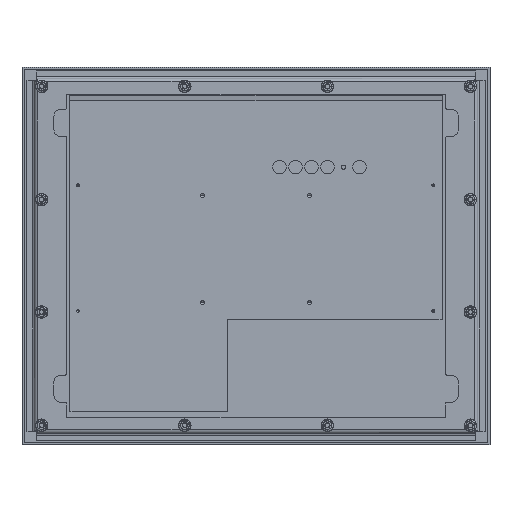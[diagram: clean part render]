
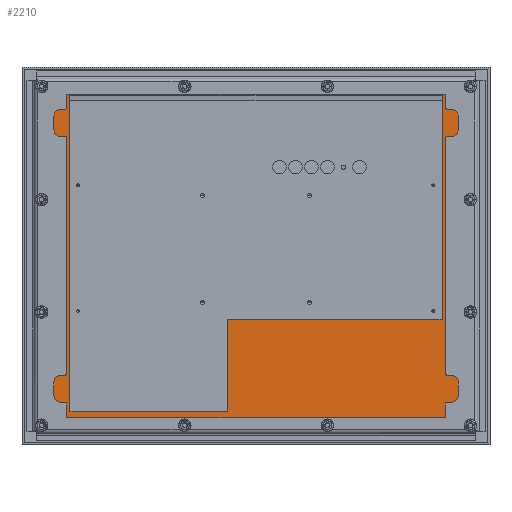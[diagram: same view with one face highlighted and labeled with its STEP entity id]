
A CAD part, top view. The second image highlights one B-rep face of the part: STEP entity #2210.
In plain terms, the highlighted planar face has unit normal (0, 0, 1).
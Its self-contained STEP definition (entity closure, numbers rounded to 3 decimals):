
#504 = VECTOR ( 'NONE', #8947, 1000. ) ;
#743 = DIRECTION ( 'NONE',  ( 0., 1., 0. ) ) ;
#769 = EDGE_CURVE ( 'NONE', #7887, #6923, #4839, .T. ) ;
#965 = EDGE_CURVE ( 'NONE', #10440, #8520, #2818, .T. ) ;
#1954 = DIRECTION ( 'NONE',  ( 0., -1., 0. ) ) ;
#2209 = CARTESIAN_POINT ( 'NONE',  ( 0., 0., 17.45 ) ) ;
#2210 = ADVANCED_FACE ( 'NONE', ( #2936 ), #6936, .F. ) ;
#2419 = CARTESIAN_POINT ( 'NONE',  ( 198.096, 149.584, 17.45 ) ) ;
#2723 = DIRECTION ( 'NONE',  ( 0., 0., -1. ) ) ;
#2818 = LINE ( 'NONE', #11550, #9916 ) ;
#2879 = ORIENTED_EDGE ( 'NONE', *, *, #9984, .T. ) ;
#2936 = FACE_OUTER_BOUND ( 'NONE', #4872, .T. ) ;
#2987 = LINE ( 'NONE', #11676, #504 ) ;
#3023 = VECTOR ( 'NONE', #5285, 1000. ) ;
#3050 = LINE ( 'NONE', #10270, #8269 ) ;
#3088 = CARTESIAN_POINT ( 'NONE',  ( 191.685, 155.996, 17.45 ) ) ;
#3143 = VERTEX_POINT ( 'NONE', #8350 ) ;
#3526 = VERTEX_POINT ( 'NONE', #2419 ) ;
#3551 = VECTOR ( 'NONE', #1954, 1000. ) ;
#3654 = EDGE_CURVE ( 'NONE', #6923, #3526, #7676, .T. ) ;
#4036 = VECTOR ( 'NONE', #11204, 1000. ) ;
#4214 = DIRECTION ( 'NONE',  ( -1., 0., 0. ) ) ;
#4359 = CARTESIAN_POINT ( 'NONE',  ( 191.685, 155.996, 17.45 ) ) ;
#4722 = DIRECTION ( 'NONE',  ( 1., 0., 0. ) ) ;
#4839 = LINE ( 'NONE', #11305, #9507 ) ;
#4867 = ORIENTED_EDGE ( 'NONE', *, *, #3654, .T. ) ;
#4871 = EDGE_CURVE ( 'NONE', #11731, #5664, #8981, .T. ) ;
#4872 = EDGE_LOOP ( 'NONE', ( #10031, #7326, #6462, #10334, #4867, #11538, #7201, #2879 ) ) ;
#4916 = CARTESIAN_POINT ( 'NONE',  ( 198.096, -149.584, 17.45 ) ) ;
#5196 = EDGE_CURVE ( 'NONE', #3526, #10440, #10689, .T. ) ;
#5285 = DIRECTION ( 'NONE',  ( -0.707, 0.707, 0. ) ) ;
#5436 = CARTESIAN_POINT ( 'NONE',  ( -191.685, 155.996, 17.45 ) ) ;
#5664 = VERTEX_POINT ( 'NONE', #6221 ) ;
#5732 = LINE ( 'NONE', #7501, #3551 ) ;
#6221 = CARTESIAN_POINT ( 'NONE',  ( -191.685, -155.996, 17.45 ) ) ;
#6305 = CARTESIAN_POINT ( 'NONE',  ( 198.096, 149.584, 17.45 ) ) ;
#6349 = EDGE_CURVE ( 'NONE', #5664, #7887, #3050, .T. ) ;
#6462 = ORIENTED_EDGE ( 'NONE', *, *, #6349, .T. ) ;
#6606 = CARTESIAN_POINT ( 'NONE',  ( 191.685, -155.996, 17.45 ) ) ;
#6665 = DIRECTION ( 'NONE',  ( 0.707, 0.707, 0. ) ) ;
#6923 = VERTEX_POINT ( 'NONE', #4916 ) ;
#6936 = PLANE ( 'NONE',  #6988 ) ;
#6988 = AXIS2_PLACEMENT_3D ( 'NONE', #2209, #2723, #10362 ) ;
#7201 = ORIENTED_EDGE ( 'NONE', *, *, #965, .T. ) ;
#7326 = ORIENTED_EDGE ( 'NONE', *, *, #4871, .T. ) ;
#7501 = CARTESIAN_POINT ( 'NONE',  ( -198.097, -149.584, 17.45 ) ) ;
#7676 = LINE ( 'NONE', #6305, #10130 ) ;
#7887 = VERTEX_POINT ( 'NONE', #6606 ) ;
#8269 = VECTOR ( 'NONE', #4722, 1000. ) ;
#8350 = CARTESIAN_POINT ( 'NONE',  ( -198.097, 149.584, 17.45 ) ) ;
#8520 = VERTEX_POINT ( 'NONE', #5436 ) ;
#8947 = DIRECTION ( 'NONE',  ( -0.707, -0.707, 0. ) ) ;
#8981 = LINE ( 'NONE', #10274, #4036 ) ;
#9507 = VECTOR ( 'NONE', #6665, 1000. ) ;
#9916 = VECTOR ( 'NONE', #4214, 1000. ) ;
#9984 = EDGE_CURVE ( 'NONE', #8520, #3143, #2987, .T. ) ;
#10031 = ORIENTED_EDGE ( 'NONE', *, *, #10280, .T. ) ;
#10130 = VECTOR ( 'NONE', #743, 1000. ) ;
#10270 = CARTESIAN_POINT ( 'NONE',  ( 191.685, -155.996, 17.45 ) ) ;
#10274 = CARTESIAN_POINT ( 'NONE',  ( -191.685, -155.996, 17.45 ) ) ;
#10280 = EDGE_CURVE ( 'NONE', #3143, #11731, #5732, .T. ) ;
#10334 = ORIENTED_EDGE ( 'NONE', *, *, #769, .T. ) ;
#10362 = DIRECTION ( 'NONE',  ( -1., 0., 0. ) ) ;
#10440 = VERTEX_POINT ( 'NONE', #3088 ) ;
#10689 = LINE ( 'NONE', #4359, #3023 ) ;
#11110 = CARTESIAN_POINT ( 'NONE',  ( -198.097, -149.584, 17.45 ) ) ;
#11204 = DIRECTION ( 'NONE',  ( 0.707, -0.707, 0. ) ) ;
#11305 = CARTESIAN_POINT ( 'NONE',  ( 198.096, -149.584, 17.45 ) ) ;
#11538 = ORIENTED_EDGE ( 'NONE', *, *, #5196, .T. ) ;
#11550 = CARTESIAN_POINT ( 'NONE',  ( -191.685, 155.996, 17.45 ) ) ;
#11676 = CARTESIAN_POINT ( 'NONE',  ( -198.097, 149.584, 17.45 ) ) ;
#11731 = VERTEX_POINT ( 'NONE', #11110 ) ;
